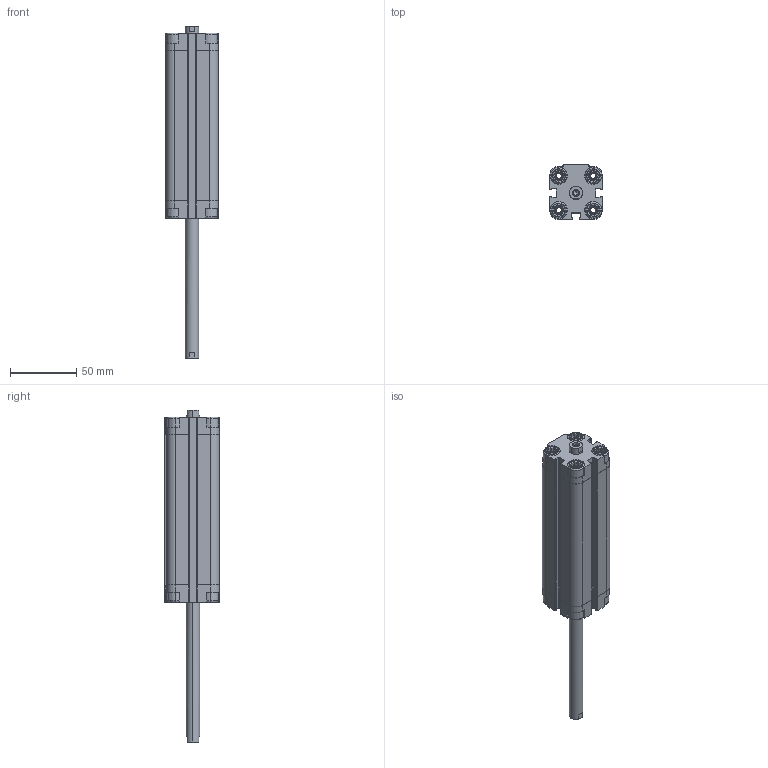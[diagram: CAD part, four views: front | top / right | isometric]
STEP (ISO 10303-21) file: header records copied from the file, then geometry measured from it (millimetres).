
FILE_DESCRIPTION (( 'STEP AP203' ), '1' );
FILE_NAME ('CDVU25-100F-P.STEP', '2020-07-24T18:10:37', ( '' ), ( '' ), 'SwSTEP 2.0', 'SolidWorks 2019', '' );
FILE_SCHEMA (( 'CONFIG_CONTROL_DESIGN' ));
Length unit declared in the file: millimetre
Products named in the file (1): CDVU25-100F-P
Bounding box: 40 x 41.5 x 250.5 mm (x, y, z)
Volume: 148619.8 mm3; surface area: 64144.7 mm2
Topology: 2 solids, 2 shells, 596 faces, 1574 edges, 1016 vertices
Faces by surface type: plane 356, cylinder 176, cone 48, torus 16
Entity records: 18577 total; most frequent: CARTESIAN_POINT 3755, ORIENTED_EDGE 3132, DIRECTION 3000, EDGE_CURVE 1566, AXIS2_PLACEMENT_3D 1029, VERTEX_POINT 1016, VECTOR 942, LINE 942
